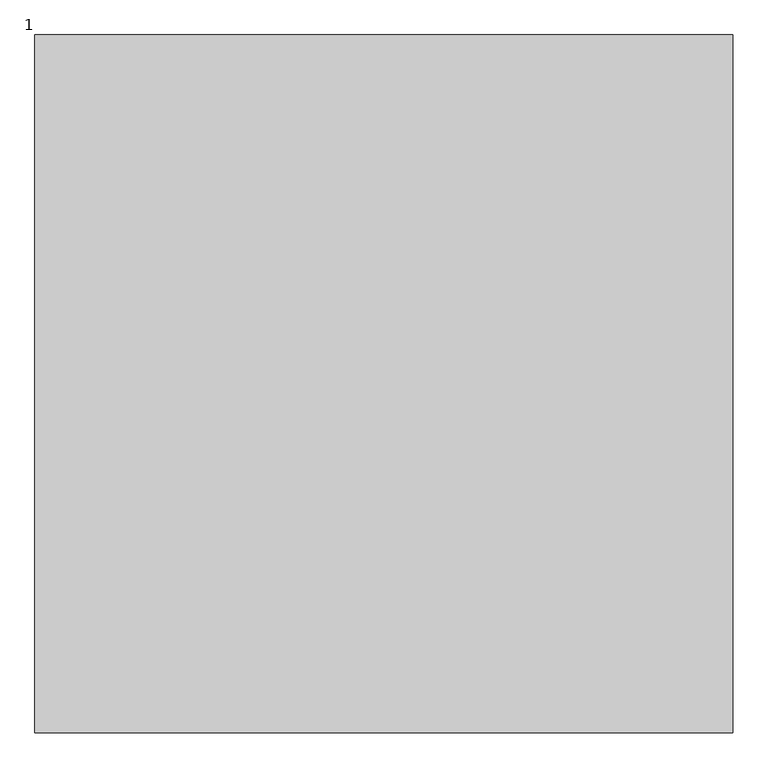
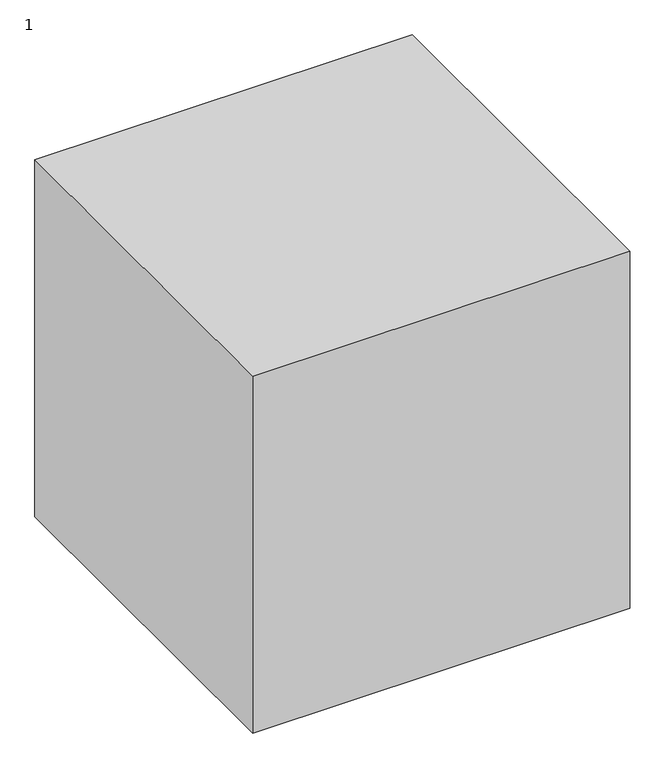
"""IFC4 building model written with IfcOpenShell, lengths in millimetres: proxy geometry, 12221121111 : 1."""

from ifc_helpers import new_model, si_unit, origin, origin_with_axes, place, context, project, spatial, polyline, outline, extrude, source, transform, mapped, element, save


def proxy_1_11dc02ac(model_context):
    return source(origin(), model_context, "Body", "SweptSolid", [
        extrude(outline(polyline([(-2307.9756708, -8664.7705528), (-2307.9756708, -9664.7705528), (-3307.9756708, -9664.7705528), (-3307.9756708, -8664.7705528), (-2307.9756708, -8664.7705528)])), origin_with_axes(), (0.0, 0.0, 1.0), 1000.0),
    ])


if __name__ == "__main__":
    model = new_model("IFC4")
    model_context = context("Model", 3, world=origin())
    ifc_project = project(units=[si_unit("LENGTHUNIT", "METRE", prefix="MILLI")], contexts=[model_context])
    site = spatial("IfcSite", under=ifc_project)
    building = spatial("IfcBuilding", under=site)
    placement = place(None, origin())
    proxy_1_shape = proxy_1_11dc02ac(model_context)
    element("IfcBuildingElementProxy", 1, Name="12221121111 : 1", ObjectType="12221121111 : 1", at=placement, inside=building, context=model_context, shape_type="MappedRepresentation", body=[
        mapped(proxy_1_shape, transform((0.0, 0.0, 0.0), x_axis=(1.0, 0.0, 0.0), y_axis=(0.0, 1.0, 0.0), z_axis=(0.0, 0.0, 1.0))),
    ])
    save(model, "model.ifc")
